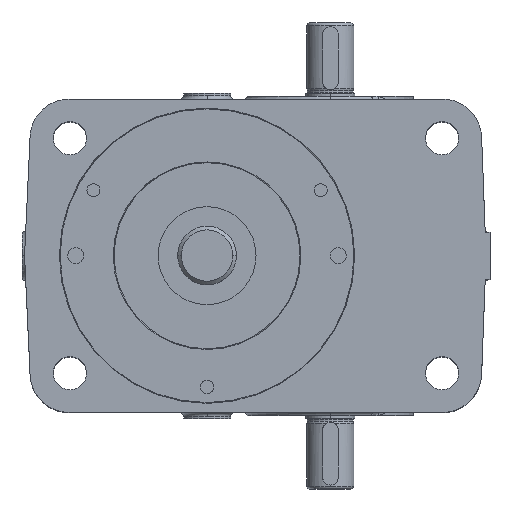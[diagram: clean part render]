
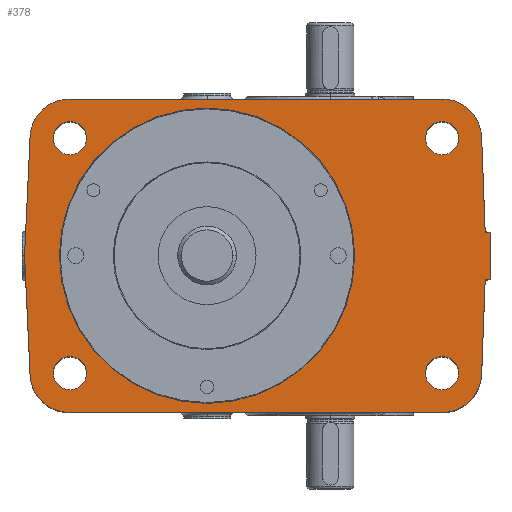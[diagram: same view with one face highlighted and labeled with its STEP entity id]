
A CAD part, top view. The second image highlights one B-rep face of the part: STEP entity #378.
In plain terms, the highlighted planar face has unit normal (0, 0, 1).
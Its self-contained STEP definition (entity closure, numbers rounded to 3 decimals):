
#378=ADVANCED_FACE('',(#1361,#1362,#1363,#1364,#1365,#1366),#1367,.T.);
#1361=FACE_OUTER_BOUND('',#3311,.T.);
#1362=FACE_BOUND('',#3312,.T.);
#1363=FACE_BOUND('',#3313,.T.);
#1364=FACE_BOUND('',#3314,.T.);
#1365=FACE_BOUND('',#3315,.T.);
#1366=FACE_BOUND('',#3316,.T.);
#1367=PLANE('',#3317);
#3311=EDGE_LOOP('',(#7343,#7344,#7345,#7346,#7347,#7348,#7349,#7350,#7351,#7352,#7353,#7354,#7355,#7356,#7357,#7358,#7359));
#3312=EDGE_LOOP('',(#7360,#7361));
#3313=EDGE_LOOP('',(#7362,#7363));
#3314=EDGE_LOOP('',(#7364,#7365));
#3315=EDGE_LOOP('',(#7366,#7367));
#3316=EDGE_LOOP('',(#7368,#7369));
#3317=AXIS2_PLACEMENT_3D('',#7370,#7371,#7372);
#7343=ORIENTED_EDGE('',*,*,#11703,.T.);
#7344=ORIENTED_EDGE('',*,*,#11002,.T.);
#7345=ORIENTED_EDGE('',*,*,#11704,.F.);
#7346=ORIENTED_EDGE('',*,*,#11705,.F.);
#7347=ORIENTED_EDGE('',*,*,#11706,.F.);
#7348=ORIENTED_EDGE('',*,*,#11707,.T.);
#7349=ORIENTED_EDGE('',*,*,#11708,.F.);
#7350=ORIENTED_EDGE('',*,*,#10992,.T.);
#7351=ORIENTED_EDGE('',*,*,#11709,.T.);
#7352=ORIENTED_EDGE('',*,*,#11698,.T.);
#7353=ORIENTED_EDGE('',*,*,#11710,.T.);
#7354=ORIENTED_EDGE('',*,*,#10990,.T.);
#7355=ORIENTED_EDGE('',*,*,#11711,.F.);
#7356=ORIENTED_EDGE('',*,*,#11712,.T.);
#7357=ORIENTED_EDGE('',*,*,#10996,.T.);
#7358=ORIENTED_EDGE('',*,*,#11713,.T.);
#7359=ORIENTED_EDGE('',*,*,#11522,.T.);
#7360=ORIENTED_EDGE('',*,*,#11714,.F.);
#7361=ORIENTED_EDGE('',*,*,#11004,.F.);
#7362=ORIENTED_EDGE('',*,*,#11715,.F.);
#7363=ORIENTED_EDGE('',*,*,#11008,.F.);
#7364=ORIENTED_EDGE('',*,*,#11716,.F.);
#7365=ORIENTED_EDGE('',*,*,#11012,.F.);
#7366=ORIENTED_EDGE('',*,*,#11717,.F.);
#7367=ORIENTED_EDGE('',*,*,#11016,.F.);
#7368=ORIENTED_EDGE('',*,*,#11701,.F.);
#7369=ORIENTED_EDGE('',*,*,#11350,.F.);
#7370=CARTESIAN_POINT('',(25.0,0.,160.0));
#7371=DIRECTION('',(0.0,0.0,1.0));
#7372=DIRECTION('',(1.0,0.0,0.0));
#10990=EDGE_CURVE('',#12858,#12862,#12864,.T.);
#10992=EDGE_CURVE('',#12868,#12865,#12869,.T.);
#10996=EDGE_CURVE('',#12876,#12873,#12877,.T.);
#11002=EDGE_CURVE('',#12882,#12886,#12888,.T.);
#11004=EDGE_CURVE('',#12889,#12892,#12893,.T.);
#11008=EDGE_CURVE('',#12897,#12900,#12901,.T.);
#11012=EDGE_CURVE('',#12905,#12908,#12909,.T.);
#11016=EDGE_CURVE('',#12913,#12916,#12917,.T.);
#11350=EDGE_CURVE('',#13529,#13531,#13532,.T.);
#11522=EDGE_CURVE('',#13812,#13810,#13813,.T.);
#11698=EDGE_CURVE('',#14106,#14104,#14107,.T.);
#11701=EDGE_CURVE('',#13531,#13529,#14110,.T.);
#11703=EDGE_CURVE('',#13810,#12882,#14112,.T.);
#11704=EDGE_CURVE('',#14113,#12886,#14114,.T.);
#11705=EDGE_CURVE('',#14115,#14113,#14116,.T.);
#11706=EDGE_CURVE('',#14117,#14115,#14118,.T.);
#11707=EDGE_CURVE('',#14117,#14119,#14120,.T.);
#11708=EDGE_CURVE('',#12868,#14119,#14121,.T.);
#11709=EDGE_CURVE('',#12865,#14106,#14122,.T.);
#11710=EDGE_CURVE('',#14104,#12858,#14123,.T.);
#11711=EDGE_CURVE('',#14124,#12862,#14125,.T.);
#11712=EDGE_CURVE('',#14124,#12876,#14126,.T.);
#11713=EDGE_CURVE('',#12873,#13812,#14127,.T.);
#11714=EDGE_CURVE('',#12892,#12889,#14128,.T.);
#11715=EDGE_CURVE('',#12900,#12897,#14129,.T.);
#11716=EDGE_CURVE('',#12908,#12905,#14130,.T.);
#11717=EDGE_CURVE('',#12916,#12913,#14131,.T.);
#12858=VERTEX_POINT('',#15891);
#12862=VERTEX_POINT('',#15896);
#12864=CIRCLE('',#15899,20.0);
#12865=VERTEX_POINT('',#15900);
#12868=VERTEX_POINT('',#15904);
#12869=CIRCLE('',#15905,20.0);
#12873=VERTEX_POINT('',#15910);
#12876=VERTEX_POINT('',#15914);
#12877=CIRCLE('',#15915,20.0);
#12882=VERTEX_POINT('',#15921);
#12886=VERTEX_POINT('',#15926);
#12888=CIRCLE('',#15929,20.0);
#12889=VERTEX_POINT('',#15930);
#12892=VERTEX_POINT('',#15934);
#12893=CIRCLE('',#15935,8.5);
#12897=VERTEX_POINT('',#15940);
#12900=VERTEX_POINT('',#15944);
#12901=CIRCLE('',#15945,8.5);
#12905=VERTEX_POINT('',#15950);
#12908=VERTEX_POINT('',#15954);
#12909=CIRCLE('',#15955,8.5);
#12913=VERTEX_POINT('',#15960);
#12916=VERTEX_POINT('',#15964);
#12917=CIRCLE('',#15965,8.5);
#13529=VERTEX_POINT('',#16970);
#13531=VERTEX_POINT('',#16973);
#13532=CIRCLE('',#16974,75.402);
#13810=VERTEX_POINT('',#17640);
#13812=VERTEX_POINT('',#17643);
#13813=LINE('',#17644,#17645);
#14104=VERTEX_POINT('',#18359);
#14106=VERTEX_POINT('',#18362);
#14107=LINE('',#18363,#18364);
#14110=CIRCLE('',#18368,75.402);
#14112=CIRCLE('',#18370,20.0);
#14113=VERTEX_POINT('',#18371);
#14114=LINE('',#18372,#18373);
#14115=VERTEX_POINT('',#18374);
#14116=LINE('',#18375,#18376);
#14117=VERTEX_POINT('',#18377);
#14118=LINE('',#18378,#18379);
#14119=VERTEX_POINT('',#18380);
#14120=LINE('',#18381,#18382);
#14121=LINE('',#18383,#18384);
#14122=CIRCLE('',#18385,20.0);
#14123=CIRCLE('',#18386,20.0);
#14124=VERTEX_POINT('',#18387);
#14125=LINE('',#18388,#18389);
#14126=LINE('',#18390,#18391);
#14127=CIRCLE('',#18392,20.0);
#14128=CIRCLE('',#18393,8.5);
#14129=CIRCLE('',#18394,8.5);
#14130=CIRCLE('',#18395,8.5);
#14131=CIRCLE('',#18396,8.5);
#15891=CARTESIAN_POINT('',(-84.214,74.464,160.0));
#15896=CARTESIAN_POINT('',(-90.381,60.922,160.0));
#15899=AXIS2_PLACEMENT_3D('',#20799,#20800,#20801);
#15900=CARTESIAN_POINT('',(134.111,74.405,160.0));
#15904=CARTESIAN_POINT('',(140.222,60.749,160.0));
#15905=AXIS2_PLACEMENT_3D('',#20803,#20804,#20805);
#15910=CARTESIAN_POINT('',(-84.214,-74.464,160.0));
#15914=CARTESIAN_POINT('',(-90.381,-60.922,160.0));
#15915=AXIS2_PLACEMENT_3D('',#20811,#20812,#20813);
#15921=CARTESIAN_POINT('',(134.111,-74.405,160.0));
#15926=CARTESIAN_POINT('',(140.222,-60.749,160.0));
#15929=AXIS2_PLACEMENT_3D('',#20823,#20824,#20825);
#15930=CARTESIAN_POINT('',(-61.5,60.0,160.0));
#15934=CARTESIAN_POINT('',(-78.5,60.0,160.0));
#15935=AXIS2_PLACEMENT_3D('',#20827,#20828,#20829);
#15940=CARTESIAN_POINT('',(128.5,60.0,160.0));
#15944=CARTESIAN_POINT('',(111.5,60.0,160.0));
#15945=AXIS2_PLACEMENT_3D('',#20835,#20836,#20837);
#15950=CARTESIAN_POINT('',(128.5,-60.0,160.0));
#15954=CARTESIAN_POINT('',(111.5,-60.0,160.0));
#15955=AXIS2_PLACEMENT_3D('',#20843,#20844,#20845);
#15960=CARTESIAN_POINT('',(-61.5,-60.0,160.0));
#15964=CARTESIAN_POINT('',(-78.5,-60.0,160.0));
#15965=AXIS2_PLACEMENT_3D('',#20851,#20852,#20853);
#16970=CARTESIAN_POINT('',(-75.402,0.,160.0));
#16973=CARTESIAN_POINT('',(75.402,0.,160.0));
#16974=AXIS2_PLACEMENT_3D('',#21456,#21457,#21458);
#17640=CARTESIAN_POINT('',(120.236,-80.0,160.0));
#17643=CARTESIAN_POINT('',(-70.402,-80.0,160.0));
#17644=CARTESIAN_POINT('',(-92.5,-80.0,160.0));
#17645=VECTOR('',#21582,190.638);
#18359=CARTESIAN_POINT('',(-70.402,80.0,160.0));
#18362=CARTESIAN_POINT('',(120.236,80.0,160.0));
#18363=CARTESIAN_POINT('',(142.5,80.0,160.0));
#18364=VECTOR('',#21690,190.638);
#18368=AXIS2_PLACEMENT_3D('',#21695,#21696,#21697);
#18370=AXIS2_PLACEMENT_3D('',#21701,#21702,#21703);
#18371=CARTESIAN_POINT('',(142.05,-12.0,160.0));
#18372=CARTESIAN_POINT('',(140.917,-42.2,160.0));
#18373=VECTOR('',#21704,48.784);
#18374=CARTESIAN_POINT('',(144.5,-12.0,160.0));
#18375=CARTESIAN_POINT('',(144.5,-12.0,160.0));
#18376=VECTOR('',#21705,2.45);
#18377=CARTESIAN_POINT('',(144.5,12.0,160.0));
#18378=CARTESIAN_POINT('',(144.5,0.0,160.0));
#18379=VECTOR('',#21706,24.0);
#18380=CARTESIAN_POINT('',(142.05,12.0,160.0));
#18381=CARTESIAN_POINT('',(144.5,12.0,160.0));
#18382=VECTOR('',#21707,2.45);
#18383=CARTESIAN_POINT('',(142.417,2.2,160.0));
#18384=VECTOR('',#21708,48.784);
#18385=AXIS2_PLACEMENT_3D('',#21709,#21710,#21711);
#18386=AXIS2_PLACEMENT_3D('',#21712,#21713,#21714);
#18387=CARTESIAN_POINT('',(-93.192,0.,160.0));
#18388=CARTESIAN_POINT('',(-89.5,80.0,160.0));
#18389=VECTOR('',#21715,60.987);
#18390=CARTESIAN_POINT('',(-92.721,-10.222,160.0));
#18391=VECTOR('',#21716,60.987);
#18392=AXIS2_PLACEMENT_3D('',#21717,#21718,#21719);
#18393=AXIS2_PLACEMENT_3D('',#21720,#21721,#21722);
#18394=AXIS2_PLACEMENT_3D('',#21723,#21724,#21725);
#18395=AXIS2_PLACEMENT_3D('',#21726,#21727,#21728);
#18396=AXIS2_PLACEMENT_3D('',#21729,#21730,#21731);
#20799=CARTESIAN_POINT('',(-70.402,60.0,160.0));
#20800=DIRECTION('',(0.0,0.0,1.0));
#20801=DIRECTION('',(-0.691,0.723,0.0));
#20803=CARTESIAN_POINT('',(120.236,60.0,160.0));
#20804=DIRECTION('',(0.0,-0.0,1.0));
#20805=DIRECTION('',(0.694,0.72,0.0));
#20811=CARTESIAN_POINT('',(-70.402,-60.0,160.0));
#20812=DIRECTION('',(0.0,0.0,1.0));
#20813=DIRECTION('',(-0.691,-0.723,0.0));
#20823=CARTESIAN_POINT('',(120.236,-60.0,160.0));
#20824=DIRECTION('',(0.0,0.0,1.0));
#20825=DIRECTION('',(0.694,-0.72,0.0));
#20827=CARTESIAN_POINT('',(-70.0,60.0,160.0));
#20828=DIRECTION('',(0.0,0.0,1.0));
#20829=DIRECTION('',(1.0,0.,0.0));
#20835=CARTESIAN_POINT('',(120.0,60.0,160.0));
#20836=DIRECTION('',(0.0,0.0,1.0));
#20837=DIRECTION('',(1.0,0.,0.0));
#20843=CARTESIAN_POINT('',(120.0,-60.0,160.0));
#20844=DIRECTION('',(0.0,0.0,1.0));
#20845=DIRECTION('',(1.0,0.,0.0));
#20851=CARTESIAN_POINT('',(-70.0,-60.0,160.0));
#20852=DIRECTION('',(0.0,0.0,1.0));
#20853=DIRECTION('',(1.0,0.,0.0));
#21456=CARTESIAN_POINT('',(0.0,0.0,160.0));
#21457=DIRECTION('',(0.0,0.0,1.0));
#21458=DIRECTION('',(-1.0,0.0,0.0));
#21582=DIRECTION('',(1.0,0.0,0.0));
#21690=DIRECTION('',(-1.0,0.,0.0));
#21695=CARTESIAN_POINT('',(0.0,0.0,160.0));
#21696=DIRECTION('',(0.0,0.0,1.0));
#21697=DIRECTION('',(-1.0,0.0,0.0));
#21701=CARTESIAN_POINT('',(120.236,-60.0,160.0));
#21702=DIRECTION('',(0.0,0.0,1.0));
#21703=DIRECTION('',(0.694,-0.72,0.0));
#21704=DIRECTION('',(-0.037,-0.999,0.0));
#21705=DIRECTION('',(-1.0,0.0,0.0));
#21706=DIRECTION('',(0.0,-1.0,0.0));
#21707=DIRECTION('',(-1.0,0.0,0.0));
#21708=DIRECTION('',(0.037,-0.999,0.0));
#21709=CARTESIAN_POINT('',(120.236,60.0,160.0));
#21710=DIRECTION('',(0.0,-0.0,1.0));
#21711=DIRECTION('',(0.694,0.72,0.0));
#21712=CARTESIAN_POINT('',(-70.402,60.0,160.0));
#21713=DIRECTION('',(0.0,0.0,1.0));
#21714=DIRECTION('',(-0.691,0.723,0.0));
#21715=DIRECTION('',(0.046,0.999,0.0));
#21716=DIRECTION('',(0.046,-0.999,0.0));
#21717=CARTESIAN_POINT('',(-70.402,-60.0,160.0));
#21718=DIRECTION('',(0.0,0.0,1.0));
#21719=DIRECTION('',(-0.691,-0.723,0.0));
#21720=CARTESIAN_POINT('',(-70.0,60.0,160.0));
#21721=DIRECTION('',(0.0,0.0,1.0));
#21722=DIRECTION('',(1.0,0.,0.0));
#21723=CARTESIAN_POINT('',(120.0,60.0,160.0));
#21724=DIRECTION('',(0.0,0.0,1.0));
#21725=DIRECTION('',(1.0,0.,0.0));
#21726=CARTESIAN_POINT('',(120.0,-60.0,160.0));
#21727=DIRECTION('',(0.0,0.0,1.0));
#21728=DIRECTION('',(1.0,0.,0.0));
#21729=CARTESIAN_POINT('',(-70.0,-60.0,160.0));
#21730=DIRECTION('',(0.0,0.0,1.0));
#21731=DIRECTION('',(1.0,0.,0.0));
